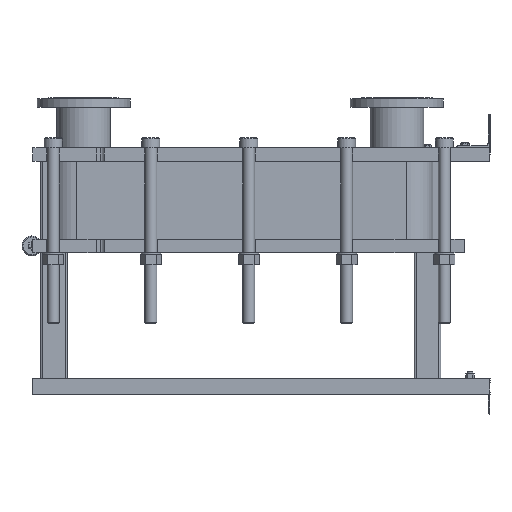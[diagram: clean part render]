
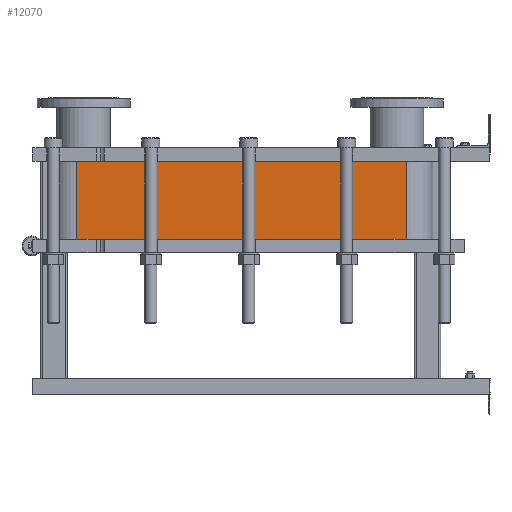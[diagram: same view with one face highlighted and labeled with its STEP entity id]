
A CAD part, left-side view. The second image highlights one B-rep face of the part: STEP entity #12070.
In plain terms, the highlighted planar face has unit normal (-1, 0, 0).
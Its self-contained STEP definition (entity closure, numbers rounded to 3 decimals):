
#1064=LINE('',#21140,#2164);
#1065=LINE('',#21144,#2165);
#1066=LINE('',#21146,#2166);
#1067=LINE('',#21147,#2167);
#2164=VECTOR('',#15790,10.);
#2165=VECTOR('',#15795,10.);
#2166=VECTOR('',#15796,10.);
#2167=VECTOR('',#15797,10.);
#3304=FACE_OUTER_BOUND('',#4091,.T.);
#4091=EDGE_LOOP('',(#9793,#9794,#9795,#9796));
#5677=VERTEX_POINT('',#21137);
#5678=VERTEX_POINT('',#21139);
#5679=VERTEX_POINT('',#21143);
#5680=VERTEX_POINT('',#21145);
#7118=EDGE_CURVE('',#5678,#5677,#1064,.T.);
#7120=EDGE_CURVE('',#5677,#5679,#1065,.T.);
#7121=EDGE_CURVE('',#5680,#5679,#1066,.T.);
#7122=EDGE_CURVE('',#5680,#5678,#1067,.T.);
#9793=ORIENTED_EDGE('',*,*,#7120,.T.);
#9794=ORIENTED_EDGE('',*,*,#7121,.F.);
#9795=ORIENTED_EDGE('',*,*,#7122,.T.);
#9796=ORIENTED_EDGE('',*,*,#7118,.T.);
#11441=PLANE('',#13191);
#12070=ADVANCED_FACE('',(#3304),#11441,.T.);
#13191=AXIS2_PLACEMENT_3D('',#21142,#15793,#15794);
#15790=DIRECTION('',(0.,0.,-1.));
#15793=DIRECTION('center_axis',(-1.,0.,0.));
#15794=DIRECTION('ref_axis',(0.,1.,0.));
#15795=DIRECTION('',(0.,-1.,0.));
#15796=DIRECTION('',(0.,0.,-1.));
#15797=DIRECTION('',(0.,1.,0.));
#21137=CARTESIAN_POINT('',(-248.152,1243.818,-234.6));
#21139=CARTESIAN_POINT('',(-248.152,1243.818,0.));
#21140=CARTESIAN_POINT('',(-248.152,1243.818,0.));
#21142=CARTESIAN_POINT('Origin',(-248.152,251.818,0.));
#21143=CARTESIAN_POINT('',(-248.152,251.818,-234.6));
#21144=CARTESIAN_POINT('',(-248.152,499.818,-234.6));
#21145=CARTESIAN_POINT('',(-248.152,251.818,0.));
#21146=CARTESIAN_POINT('',(-248.152,251.818,0.));
#21147=CARTESIAN_POINT('',(-248.152,251.818,0.));
